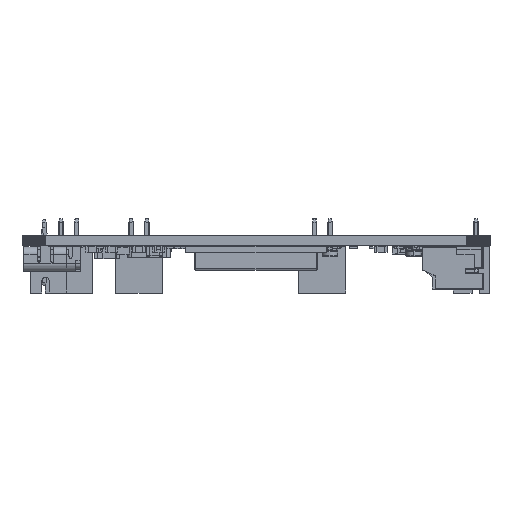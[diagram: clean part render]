
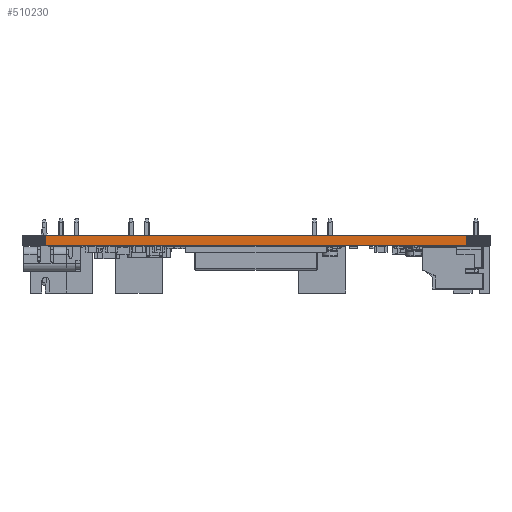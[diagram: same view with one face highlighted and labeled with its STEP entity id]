
A CAD part, front view. The second image highlights one B-rep face of the part: STEP entity #510230.
In plain terms, the highlighted planar face has unit normal (0, -1, 0) as drawn and (0, 1, 0) by its records, which use the part's own axes.
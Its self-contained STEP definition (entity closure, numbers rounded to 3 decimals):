
#477337 = PLANE('',#477338);
#477338 = AXIS2_PLACEMENT_3D('',#477339,#477340,#477341);
#477339 = CARTESIAN_POINT('',(68.794,-18.637,0.));
#477340 = DIRECTION('',(0.006,1.,-0.));
#477341 = DIRECTION('',(1.,-0.006,0.));
#477365 = PLANE('',#477366);
#477366 = AXIS2_PLACEMENT_3D('',#477367,#477368,#477369);
#477367 = CARTESIAN_POINT('',(0.,0.,1.33));
#477368 = DIRECTION('',(0.,0.,1.));
#477369 = DIRECTION('',(1.,0.,-0.));
#477419 = PLANE('',#477420);
#477420 = AXIS2_PLACEMENT_3D('',#477421,#477422,#477423);
#477421 = CARTESIAN_POINT('',(0.,0.,0.));
#477422 = DIRECTION('',(0.,0.,1.));
#477423 = DIRECTION('',(1.,0.,-0.));
#477434 = EDGE_CURVE('',#477435,#477437,#477439,.T.);
#477435 = VERTEX_POINT('',#477436);
#477436 = CARTESIAN_POINT('',(68.794,-18.637,0.));
#477437 = VERTEX_POINT('',#477438);
#477438 = CARTESIAN_POINT('',(68.794,-18.637,1.33));
#477439 = SURFACE_CURVE('',#477440,(#477444,#477451),.PCURVE_S1.);
#477440 = LINE('',#477441,#477442);
#477441 = CARTESIAN_POINT('',(68.794,-18.637,0.));
#477442 = VECTOR('',#477443,1.);
#477443 = DIRECTION('',(0.,0.,1.));
#477444 = PCURVE('',#477337,#477445);
#477445 = DEFINITIONAL_REPRESENTATION('',(#477446),#477450);
#477446 = LINE('',#477447,#477448);
#477447 = CARTESIAN_POINT('',(0.,0.));
#477448 = VECTOR('',#477449,1.);
#477449 = DIRECTION('',(0.,-1.));
#477450 = ( GEOMETRIC_REPRESENTATION_CONTEXT(2) 
PARAMETRIC_REPRESENTATION_CONTEXT() REPRESENTATION_CONTEXT('2D SPACE',''
  ) );
#477451 = PCURVE('',#477452,#477457);
#477452 = PLANE('',#477453);
#477453 = AXIS2_PLACEMENT_3D('',#477454,#477455,#477456);
#477454 = CARTESIAN_POINT('',(14.794,-18.637,0.));
#477455 = DIRECTION('',(0.,1.,0.));
#477456 = DIRECTION('',(1.,0.,0.));
#477457 = DEFINITIONAL_REPRESENTATION('',(#477458),#477462);
#477458 = LINE('',#477459,#477460);
#477459 = CARTESIAN_POINT('',(54.,0.));
#477460 = VECTOR('',#477461,1.);
#477461 = DIRECTION('',(0.,-1.));
#477462 = ( GEOMETRIC_REPRESENTATION_CONTEXT(2) 
PARAMETRIC_REPRESENTATION_CONTEXT() REPRESENTATION_CONTEXT('2D SPACE',''
  ) );
#477588 = EDGE_CURVE('',#477589,#477435,#477591,.T.);
#477589 = VERTEX_POINT('',#477590);
#477590 = CARTESIAN_POINT('',(14.794,-18.637,0.));
#477591 = SURFACE_CURVE('',#477592,(#477596,#477603),.PCURVE_S1.);
#477592 = LINE('',#477593,#477594);
#477593 = CARTESIAN_POINT('',(14.794,-18.637,0.));
#477594 = VECTOR('',#477595,1.);
#477595 = DIRECTION('',(1.,0.,0.));
#477596 = PCURVE('',#477419,#477597);
#477597 = DEFINITIONAL_REPRESENTATION('',(#477598),#477602);
#477598 = LINE('',#477599,#477600);
#477599 = CARTESIAN_POINT('',(14.794,-18.637));
#477600 = VECTOR('',#477601,1.);
#477601 = DIRECTION('',(1.,0.));
#477602 = ( GEOMETRIC_REPRESENTATION_CONTEXT(2) 
PARAMETRIC_REPRESENTATION_CONTEXT() REPRESENTATION_CONTEXT('2D SPACE',''
  ) );
#477603 = PCURVE('',#477452,#477604);
#477604 = DEFINITIONAL_REPRESENTATION('',(#477605),#477609);
#477605 = LINE('',#477606,#477607);
#477606 = CARTESIAN_POINT('',(0.,0.));
#477607 = VECTOR('',#477608,1.);
#477608 = DIRECTION('',(1.,0.));
#477609 = ( GEOMETRIC_REPRESENTATION_CONTEXT(2) 
PARAMETRIC_REPRESENTATION_CONTEXT() REPRESENTATION_CONTEXT('2D SPACE',''
  ) );
#477627 = PLANE('',#477628);
#477628 = AXIS2_PLACEMENT_3D('',#477629,#477630,#477631);
#477629 = CARTESIAN_POINT('',(14.757,-18.638,0.));
#477630 = DIRECTION('',(-0.006,1.,0.));
#477631 = DIRECTION('',(1.,0.006,0.));
#495447 = EDGE_CURVE('',#495448,#477437,#495450,.T.);
#495448 = VERTEX_POINT('',#495449);
#495449 = CARTESIAN_POINT('',(14.794,-18.637,1.33));
#495450 = SURFACE_CURVE('',#495451,(#495455,#495462),.PCURVE_S1.);
#495451 = LINE('',#495452,#495453);
#495452 = CARTESIAN_POINT('',(14.794,-18.637,1.33));
#495453 = VECTOR('',#495454,1.);
#495454 = DIRECTION('',(1.,0.,0.));
#495455 = PCURVE('',#477365,#495456);
#495456 = DEFINITIONAL_REPRESENTATION('',(#495457),#495461);
#495457 = LINE('',#495458,#495459);
#495458 = CARTESIAN_POINT('',(14.794,-18.637));
#495459 = VECTOR('',#495460,1.);
#495460 = DIRECTION('',(1.,0.));
#495461 = ( GEOMETRIC_REPRESENTATION_CONTEXT(2) 
PARAMETRIC_REPRESENTATION_CONTEXT() REPRESENTATION_CONTEXT('2D SPACE',''
  ) );
#495462 = PCURVE('',#477452,#495463);
#495463 = DEFINITIONAL_REPRESENTATION('',(#495464),#495468);
#495464 = LINE('',#495465,#495466);
#495465 = CARTESIAN_POINT('',(0.,-1.33));
#495466 = VECTOR('',#495467,1.);
#495467 = DIRECTION('',(1.,0.));
#495468 = ( GEOMETRIC_REPRESENTATION_CONTEXT(2) 
PARAMETRIC_REPRESENTATION_CONTEXT() REPRESENTATION_CONTEXT('2D SPACE',''
  ) );
#510230 = ADVANCED_FACE('',(#510231),#477452,.T.);
#510231 = FACE_BOUND('',#510232,.T.);
#510232 = EDGE_LOOP('',(#510233,#510254,#510255,#510256));
#510233 = ORIENTED_EDGE('',*,*,#510234,.T.);
#510234 = EDGE_CURVE('',#477589,#495448,#510235,.T.);
#510235 = SURFACE_CURVE('',#510236,(#510240,#510247),.PCURVE_S1.);
#510236 = LINE('',#510237,#510238);
#510237 = CARTESIAN_POINT('',(14.794,-18.637,0.));
#510238 = VECTOR('',#510239,1.);
#510239 = DIRECTION('',(0.,0.,1.));
#510240 = PCURVE('',#477452,#510241);
#510241 = DEFINITIONAL_REPRESENTATION('',(#510242),#510246);
#510242 = LINE('',#510243,#510244);
#510243 = CARTESIAN_POINT('',(0.,0.));
#510244 = VECTOR('',#510245,1.);
#510245 = DIRECTION('',(0.,-1.));
#510246 = ( GEOMETRIC_REPRESENTATION_CONTEXT(2) 
PARAMETRIC_REPRESENTATION_CONTEXT() REPRESENTATION_CONTEXT('2D SPACE',''
  ) );
#510247 = PCURVE('',#477627,#510248);
#510248 = DEFINITIONAL_REPRESENTATION('',(#510249),#510253);
#510249 = LINE('',#510250,#510251);
#510250 = CARTESIAN_POINT('',(0.037,0.));
#510251 = VECTOR('',#510252,1.);
#510252 = DIRECTION('',(0.,-1.));
#510253 = ( GEOMETRIC_REPRESENTATION_CONTEXT(2) 
PARAMETRIC_REPRESENTATION_CONTEXT() REPRESENTATION_CONTEXT('2D SPACE',''
  ) );
#510254 = ORIENTED_EDGE('',*,*,#495447,.T.);
#510255 = ORIENTED_EDGE('',*,*,#477434,.F.);
#510256 = ORIENTED_EDGE('',*,*,#477588,.F.);
